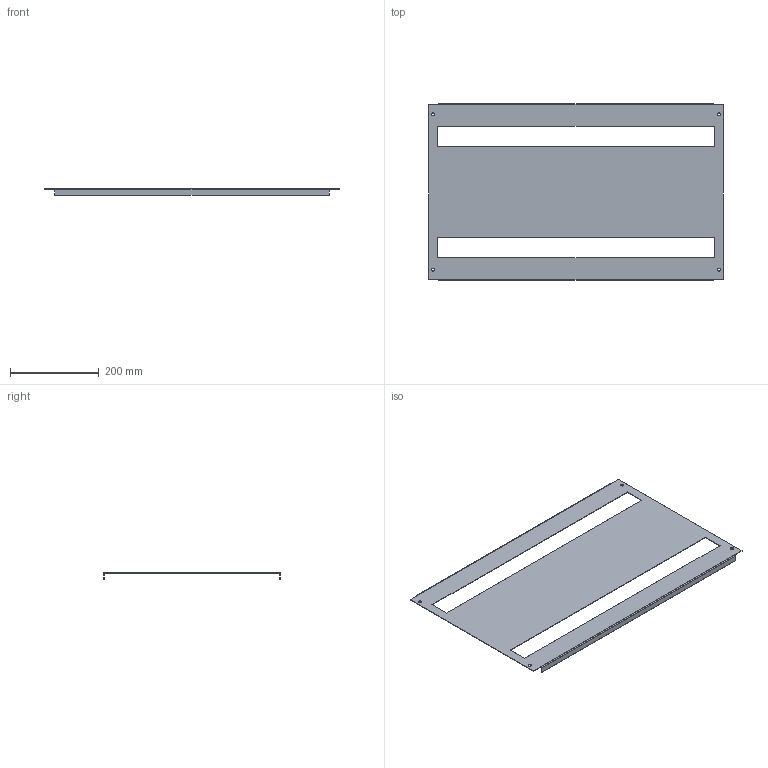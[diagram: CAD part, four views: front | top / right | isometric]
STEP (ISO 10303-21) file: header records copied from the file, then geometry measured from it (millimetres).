
FILE_DESCRIPTION (( 'STEP AP203' ), '1' );
FILE_NAME ('MB 40.70 P Ïàíåëü ìîäóëüíàÿ.STEP', '2012-11-21T07:15:45', ( 'system' ), ( '' ), 'SwSTEP 2.0', 'SolidWorks 2012', '' );
FILE_SCHEMA (( 'CONFIG_CONTROL_DESIGN' ));
Length unit declared in the file: millimetre
Products named in the file (1): MB 40.70 P Ïàíåëü ìîäóëüíàÿ
Bounding box: 665 x 399 x 15 mm (x, y, z)
Volume: 268526.7 mm3; surface area: 453477.3 mm2
Topology: 1 solids, 1 shells, 42 faces, 104 edges, 64 vertices
Faces by surface type: plane 30, cylinder 12
Entity records: 1325 total; most frequent: DIRECTION 214, CARTESIAN_POINT 211, ORIENTED_EDGE 208, EDGE_CURVE 104, LINE 80, VECTOR 80, AXIS2_PLACEMENT_3D 67, VERTEX_POINT 64
